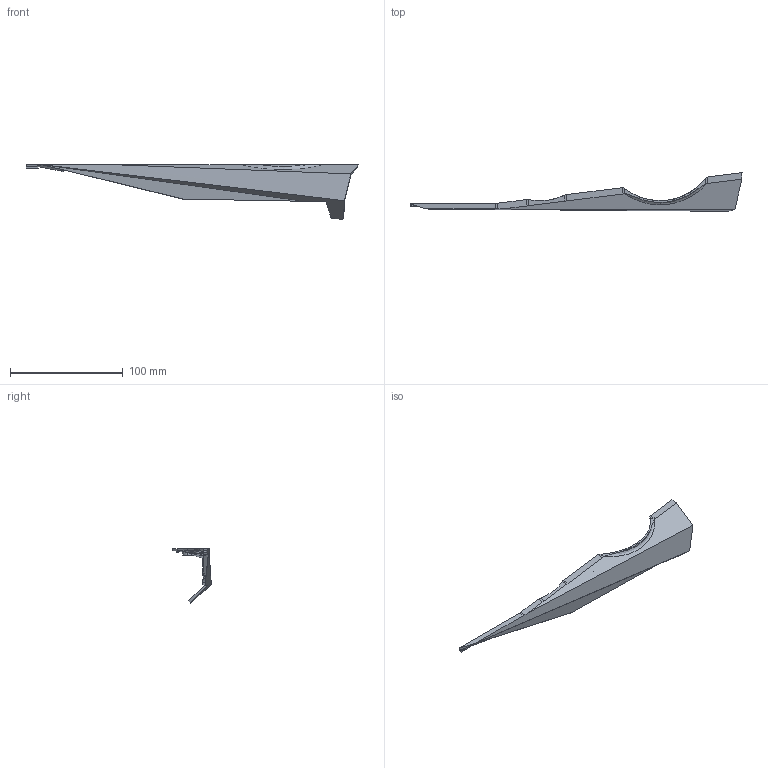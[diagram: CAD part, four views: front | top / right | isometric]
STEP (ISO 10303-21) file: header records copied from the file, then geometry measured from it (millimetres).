
FILE_DESCRIPTION (( 'STEP AP214' ), '1' );
FILE_NAME ('SWFT 2025 3D 3725.STEP', '2025-03-08T00:21:34', ( '' ), ( '' ), 'SwSTEP 2.0', 'SolidWorks 2023', '' );
FILE_SCHEMA (( 'AUTOMOTIVE_DESIGN' ));
Length unit declared in the file: millimetre
Products named in the file (1): SWFT 2025 3D 3725
Bounding box: 294.39 x 34.16 x 48.58 mm (x, y, z)
Volume: 19647 mm3; surface area: 21908 mm2
Topology: 1 solids, 1 shells, 212 faces, 622 edges, 421 vertices
Faces by surface type: plane 161, cylinder 17, bspline 14, cone 14, torus 6
Entity records: 9922 total; most frequent: CARTESIAN_POINT 5068, ORIENTED_EDGE 1244, DIRECTION 635, EDGE_CURVE 622, VERTEX_POINT 421, B_SPLINE_CURVE_WITH_KNOTS 408, EDGE_LOOP 223, AXIS2_PLACEMENT_3D 222
